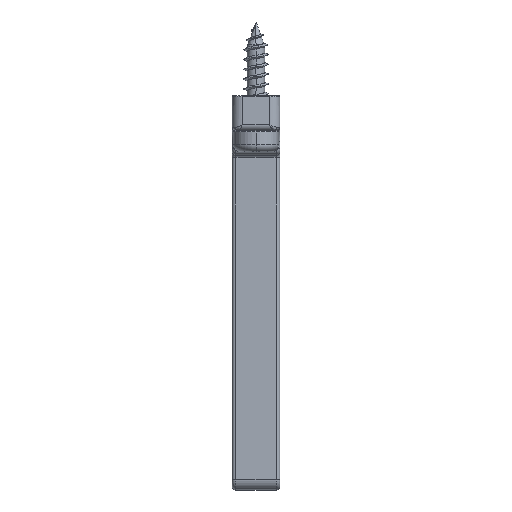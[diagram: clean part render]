
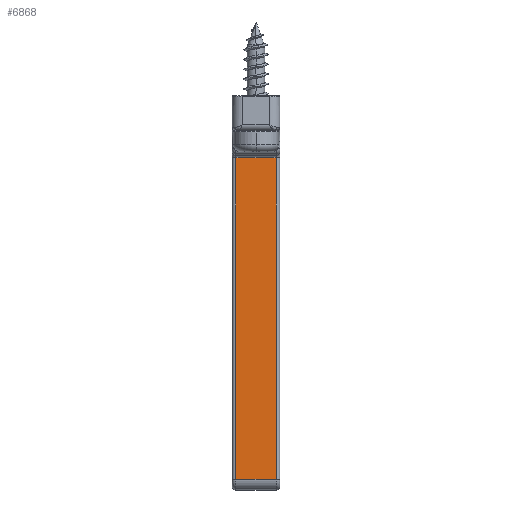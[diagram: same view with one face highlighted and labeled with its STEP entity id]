
A CAD part, front view. The second image highlights one B-rep face of the part: STEP entity #6868.
In plain terms, the highlighted planar face has unit normal (0, -1, 0).
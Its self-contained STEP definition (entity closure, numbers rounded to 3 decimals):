
#44 = CARTESIAN_POINT ( 'NONE',  ( 51.445, -10., 41.6 ) ) ;
#133 = VERTEX_POINT ( 'NONE', #3823 ) ;
#253 = LINE ( 'NONE', #6836, #8281 ) ;
#285 = VECTOR ( 'NONE', #3964, 1000. ) ;
#333 = EDGE_CURVE ( 'NONE', #4924, #5738, #2381, .T. ) ;
#407 = VERTEX_POINT ( 'NONE', #975 ) ;
#448 = LINE ( 'NONE', #2614, #5934 ) ;
#694 = PLANE ( 'NONE',  #5247 ) ;
#914 = DIRECTION ( 'NONE',  ( 0., 1., 0. ) ) ;
#975 = CARTESIAN_POINT ( 'NONE',  ( 2.9, -10., -4.3 ) ) ;
#1006 = ORIENTED_EDGE ( 'NONE', *, *, #5948, .T. ) ;
#1223 = VECTOR ( 'NONE', #5254, 1000. ) ;
#1374 = CARTESIAN_POINT ( 'NONE',  ( 6.673, -10., 41.6 ) ) ;
#1430 = LINE ( 'NONE', #5703, #7381 ) ;
#1453 = EDGE_CURVE ( 'NONE', #5707, #407, #3686, .T. ) ;
#1689 = AXIS2_PLACEMENT_3D ( 'NONE', #8150, #3498, #8927 ) ;
#1757 = DIRECTION ( 'NONE',  ( 1., 0., 0. ) ) ;
#2152 = EDGE_CURVE ( 'NONE', #9189, #133, #253, .T. ) ;
#2274 = CARTESIAN_POINT ( 'NONE',  ( 6.673, -10., 39. ) ) ;
#2355 = AXIS2_PLACEMENT_3D ( 'NONE', #5570, #914, #6352 ) ;
#2381 = LINE ( 'NONE', #44, #285 ) ;
#2571 = CARTESIAN_POINT ( 'NONE',  ( 6.673, -10., -4.3 ) ) ;
#2601 = DIRECTION ( 'NONE',  ( 0., 0., -1. ) ) ;
#2614 = CARTESIAN_POINT ( 'NONE',  ( 2.9, -10., 41.6 ) ) ;
#2752 = ORIENTED_EDGE ( 'NONE', *, *, #2903, .T. ) ;
#2903 = EDGE_CURVE ( 'NONE', #6704, #8957, #3301, .T. ) ;
#3059 = DIRECTION ( 'NONE',  ( 1., 0., 0. ) ) ;
#3301 = LINE ( 'NONE', #1374, #1223 ) ;
#3381 = DIRECTION ( 'NONE',  ( 0., 0., 1. ) ) ;
#3498 = DIRECTION ( 'NONE',  ( 0., 1., 0. ) ) ;
#3511 = CARTESIAN_POINT ( 'NONE',  ( -2.05, -10., 41.6 ) ) ;
#3686 = LINE ( 'NONE', #2571, #4163 ) ;
#3752 = CARTESIAN_POINT ( 'NONE',  ( 2.9, -10., 41.6 ) ) ;
#3823 = CARTESIAN_POINT ( 'NONE',  ( -2.9, -10., 41.6 ) ) ;
#3964 = DIRECTION ( 'NONE',  ( -1., 0., 0. ) ) ;
#4163 = VECTOR ( 'NONE', #1757, 1000. ) ;
#4548 = CARTESIAN_POINT ( 'NONE',  ( -2.9, -10., -4.3 ) ) ;
#4861 = CIRCLE ( 'NONE', #1689, 0.9 ) ;
#4924 = VERTEX_POINT ( 'NONE', #3752 ) ;
#5247 = AXIS2_PLACEMENT_3D ( 'NONE', #2274, #7707, #3059 ) ;
#5254 = DIRECTION ( 'NONE',  ( -1., 0., 0. ) ) ;
#5570 = CARTESIAN_POINT ( 'NONE',  ( 2.05, -10., 42.5 ) ) ;
#5703 = CARTESIAN_POINT ( 'NONE',  ( -2.9, -10., -4.3 ) ) ;
#5707 = VERTEX_POINT ( 'NONE', #4548 ) ;
#5738 = VERTEX_POINT ( 'NONE', #8476 ) ;
#5934 = VECTOR ( 'NONE', #3381, 1000. ) ;
#5948 = EDGE_CURVE ( 'NONE', #407, #4924, #448, .T. ) ;
#6053 = CIRCLE ( 'NONE', #2355, 0.9 ) ;
#6352 = DIRECTION ( 'NONE',  ( 1., 0., 0. ) ) ;
#6406 = EDGE_CURVE ( 'NONE', #5738, #6704, #6053, .T. ) ;
#6523 = EDGE_CURVE ( 'NONE', #133, #5707, #1430, .T. ) ;
#6704 = VERTEX_POINT ( 'NONE', #8284 ) ;
#6836 = CARTESIAN_POINT ( 'NONE',  ( 51.445, -10., 41.6 ) ) ;
#6868 = ADVANCED_FACE ( 'NONE', ( #8004 ), #694, .T. ) ;
#7381 = VECTOR ( 'NONE', #2601, 1000. ) ;
#7601 = ORIENTED_EDGE ( 'NONE', *, *, #1453, .T. ) ;
#7613 = CARTESIAN_POINT ( 'NONE',  ( -2.05, -10., 41.6 ) ) ;
#7620 = DIRECTION ( 'NONE',  ( -1., 0., 0. ) ) ;
#7707 = DIRECTION ( 'NONE',  ( 0., -1., 0. ) ) ;
#8004 = FACE_OUTER_BOUND ( 'NONE', #9520, .T. ) ;
#8052 = ORIENTED_EDGE ( 'NONE', *, *, #9611, .T. ) ;
#8150 = CARTESIAN_POINT ( 'NONE',  ( -2.05, -10., 42.5 ) ) ;
#8198 = ORIENTED_EDGE ( 'NONE', *, *, #6406, .T. ) ;
#8281 = VECTOR ( 'NONE', #7620, 1000. ) ;
#8284 = CARTESIAN_POINT ( 'NONE',  ( 2.05, -10., 41.6 ) ) ;
#8476 = CARTESIAN_POINT ( 'NONE',  ( 2.05, -10., 41.6 ) ) ;
#8483 = ORIENTED_EDGE ( 'NONE', *, *, #6523, .T. ) ;
#8881 = ORIENTED_EDGE ( 'NONE', *, *, #2152, .T. ) ;
#8927 = DIRECTION ( 'NONE',  ( 1., 0., 0. ) ) ;
#8957 = VERTEX_POINT ( 'NONE', #3511 ) ;
#9189 = VERTEX_POINT ( 'NONE', #7613 ) ;
#9520 = EDGE_LOOP ( 'NONE', ( #8881, #8483, #7601, #1006, #9566, #8198, #2752, #8052 ) ) ;
#9566 = ORIENTED_EDGE ( 'NONE', *, *, #333, .T. ) ;
#9611 = EDGE_CURVE ( 'NONE', #8957, #9189, #4861, .T. ) ;
